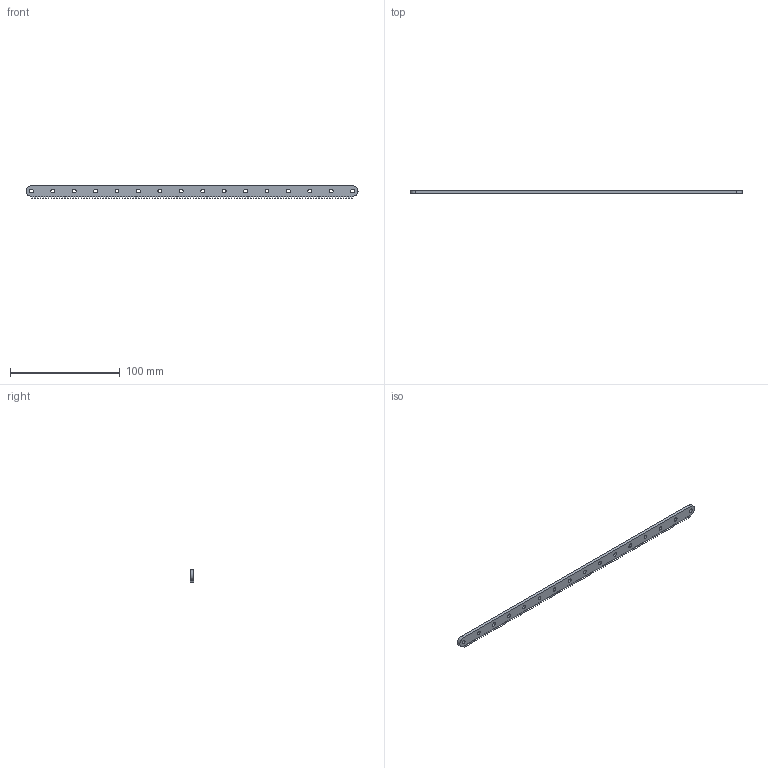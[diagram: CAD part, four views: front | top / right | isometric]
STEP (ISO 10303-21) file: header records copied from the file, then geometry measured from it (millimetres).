
FILE_DESCRIPTION (( 'STEP AP203' ), '1' );
FILE_NAME ('615410.STEP', '2015-06-16T18:52:34', ( 'Kyle' ), ( 'Microsoft' ), 'SwSTEP 2.0', 'SolidWorks 2014', '' );
FILE_SCHEMA (( 'CONFIG_CONTROL_DESIGN' ));
Length unit declared in the file: inch
Products named in the file (1): 615410
Bounding box: 303.15 x 3.17 x 11.27 mm (x, y, z)
Volume: 9370.8 mm3; surface area: 9361.1 mm2
Topology: 1 solids, 1 shells, 510 faces, 1524 edges, 1016 vertices
Faces by surface type: plane 476, cylinder 34
Entity records: 16999 total; most frequent: CARTESIAN_POINT 3051, ORIENTED_EDGE 3048, DIRECTION 2614, EDGE_CURVE 1524, VECTOR 1456, LINE 1456, VERTEX_POINT 1016, AXIS2_PLACEMENT_3D 579
